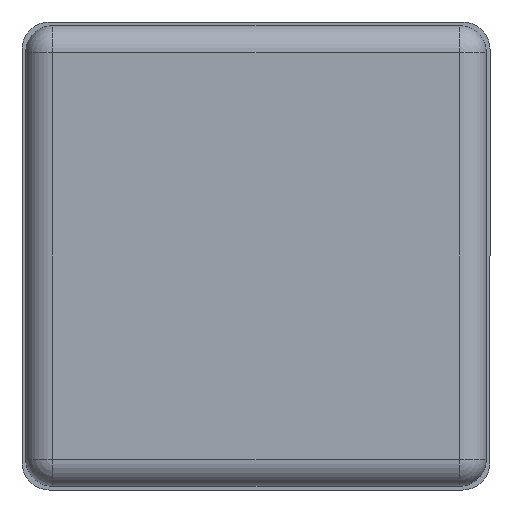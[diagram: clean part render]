
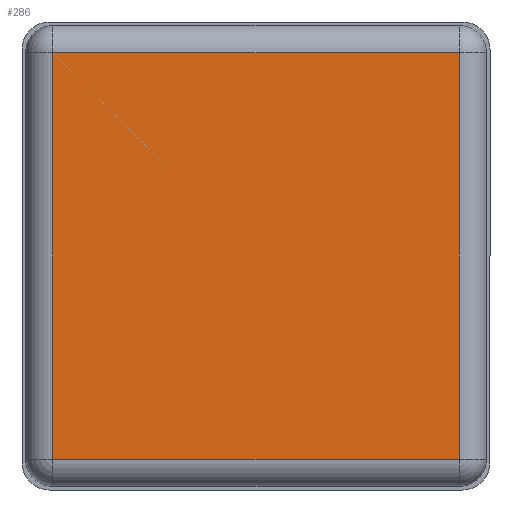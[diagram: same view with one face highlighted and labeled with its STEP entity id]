
A CAD part, front view. The second image highlights one B-rep face of the part: STEP entity #286.
In plain terms, the highlighted planar face has unit normal (0, -1, 0).
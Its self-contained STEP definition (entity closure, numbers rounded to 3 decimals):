
#26 = DIRECTION ( 'NONE',  ( 0., 0., 1. ) ) ;
#33 = CARTESIAN_POINT ( 'NONE',  ( 11.2, -9.8, 11.2 ) ) ;
#106 = ORIENTED_EDGE ( 'NONE', *, *, #1006, .T. ) ;
#125 = CARTESIAN_POINT ( 'NONE',  ( 11.2, -9.8, 11.2 ) ) ;
#144 = VECTOR ( 'NONE', #205, 1000. ) ;
#163 = CARTESIAN_POINT ( 'NONE',  ( -11.2, -9.8, 11.2 ) ) ;
#205 = DIRECTION ( 'NONE',  ( 0., 0., -1. ) ) ;
#258 = VERTEX_POINT ( 'NONE', #163 ) ;
#261 = DIRECTION ( 'NONE',  ( 0., 0., 1. ) ) ;
#286 = ADVANCED_FACE ( 'NONE', ( #553 ), #564, .F. ) ;
#288 = CARTESIAN_POINT ( 'NONE',  ( 11.2, -9.8, -11.2 ) ) ;
#319 = CARTESIAN_POINT ( 'NONE',  ( -11.2, -9.8, 11.2 ) ) ;
#428 = LINE ( 'NONE', #125, #1046 ) ;
#438 = ORIENTED_EDGE ( 'NONE', *, *, #874, .T. ) ;
#451 = VERTEX_POINT ( 'NONE', #1191 ) ;
#455 = VECTOR ( 'NONE', #1303, 1000. ) ;
#465 = ORIENTED_EDGE ( 'NONE', *, *, #927, .T. ) ;
#492 = LINE ( 'NONE', #885, #144 ) ;
#553 = FACE_OUTER_BOUND ( 'NONE', #698, .T. ) ;
#564 = PLANE ( 'NONE',  #1051 ) ;
#573 = DIRECTION ( 'NONE',  ( 0., 1., 0. ) ) ;
#691 = CARTESIAN_POINT ( 'NONE',  ( 11.2, -9.8, -11.2 ) ) ;
#698 = EDGE_LOOP ( 'NONE', ( #912, #438, #106, #465 ) ) ;
#754 = CARTESIAN_POINT ( 'NONE',  ( -11.2, -9.8, -11.2 ) ) ;
#769 = VECTOR ( 'NONE', #790, 1000. ) ;
#790 = DIRECTION ( 'NONE',  ( -1., 0., 0. ) ) ;
#861 = EDGE_CURVE ( 'NONE', #1218, #258, #917, .T. ) ;
#874 = EDGE_CURVE ( 'NONE', #258, #451, #492, .T. ) ;
#885 = CARTESIAN_POINT ( 'NONE',  ( -11.2, -9.8, -11.2 ) ) ;
#912 = ORIENTED_EDGE ( 'NONE', *, *, #861, .T. ) ;
#917 = LINE ( 'NONE', #319, #769 ) ;
#927 = EDGE_CURVE ( 'NONE', #990, #1218, #428, .T. ) ;
#990 = VERTEX_POINT ( 'NONE', #691 ) ;
#1006 = EDGE_CURVE ( 'NONE', #451, #990, #1093, .T. ) ;
#1046 = VECTOR ( 'NONE', #26, 1000. ) ;
#1051 = AXIS2_PLACEMENT_3D ( 'NONE', #754, #573, #261 ) ;
#1093 = LINE ( 'NONE', #288, #455 ) ;
#1191 = CARTESIAN_POINT ( 'NONE',  ( -11.2, -9.8, -11.2 ) ) ;
#1218 = VERTEX_POINT ( 'NONE', #33 ) ;
#1303 = DIRECTION ( 'NONE',  ( 1., 0., 0. ) ) ;
